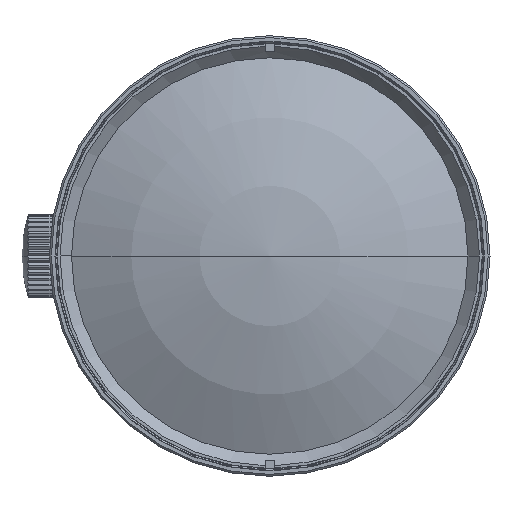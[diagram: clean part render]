
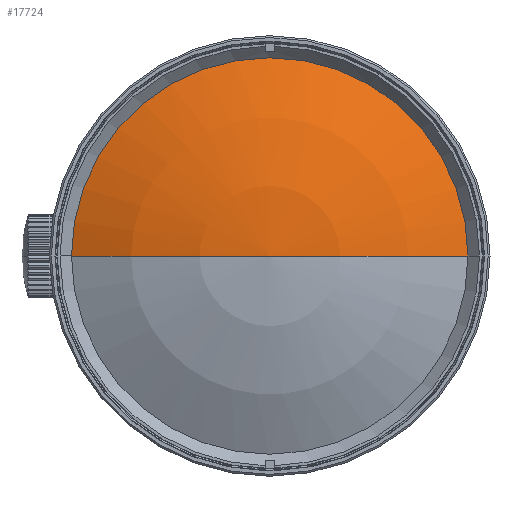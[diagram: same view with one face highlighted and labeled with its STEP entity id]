
A CAD part, left-side view. The second image highlights one B-rep face of the part: STEP entity #17724.
In plain terms, the highlighted spherical face has radius 48 mm.
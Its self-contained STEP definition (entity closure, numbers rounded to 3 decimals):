
#17579=CARTESIAN_POINT('',(-19.414,0.,0.));
#17580=DIRECTION('',(-1.,0.,0.));
#17581=DIRECTION('',(0.,-1.,0.));
#17582=AXIS2_PLACEMENT_3D('',#17579,#17580,#17581);
#17597=CARTESIAN_POINT('',(23.17,0.,0.));
#17598=DIRECTION('',(0.,0.,1.));
#17599=DIRECTION('',(-0.887,0.461,0.));
#17600=AXIS2_PLACEMENT_3D('',#17597,#17598,#17599);
#17602=CARTESIAN_POINT('',(23.17,0.,0.));
#17603=DIRECTION('',(0.,0.,1.));
#17604=DIRECTION('',(-1.,0.,0.));
#17605=AXIS2_PLACEMENT_3D('',#17602,#17603,#17604);
#17683=CARTESIAN_POINT('',(-19.414,-22.15,0.));
#17684=CARTESIAN_POINT('',(-19.414,22.15,0.));
#17685=VERTEX_POINT('',#17683);
#17686=VERTEX_POINT('',#17684);
#17691=CARTESIAN_POINT('',(-24.83,0.,0.));
#17692=VERTEX_POINT('',#17691);
#17711=CARTESIAN_POINT('',(23.17,0.,0.));
#17712=DIRECTION('',(1.,0.,0.));
#17713=DIRECTION('',(0.,-1.,0.));
#17714=AXIS2_PLACEMENT_3D('',#17711,#17712,#17713);
#17715=SPHERICAL_SURFACE('',#17714,48.);
#17717=ORIENTED_EDGE('',*,*,#17716,.F.);
#17719=ORIENTED_EDGE('',*,*,#17718,.F.);
#17721=ORIENTED_EDGE('',*,*,#17720,.F.);
#17722=EDGE_LOOP('',(#17717,#17719,#17721));
#17723=FACE_OUTER_BOUND('',#17722,.F.);
#17583=CIRCLE('',#17582,22.15);
#17601=CIRCLE('',#17600,48.);
#17606=CIRCLE('',#17605,48.);
#17716=EDGE_CURVE('',#17685,#17686,#17583,.T.);
#17718=EDGE_CURVE('',#17692,#17685,#17606,.T.);
#17720=EDGE_CURVE('',#17686,#17692,#17601,.T.);
#17724=ADVANCED_FACE('',(#17723),#17715,.T.);
